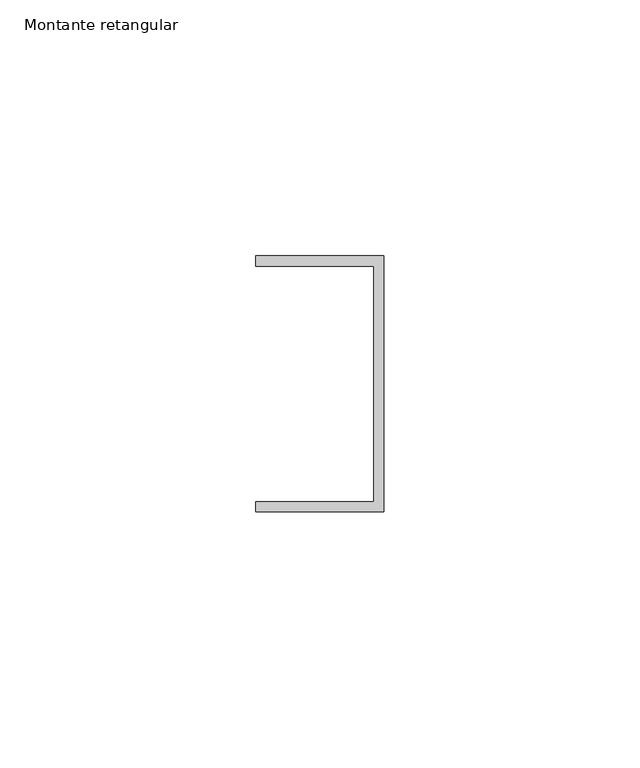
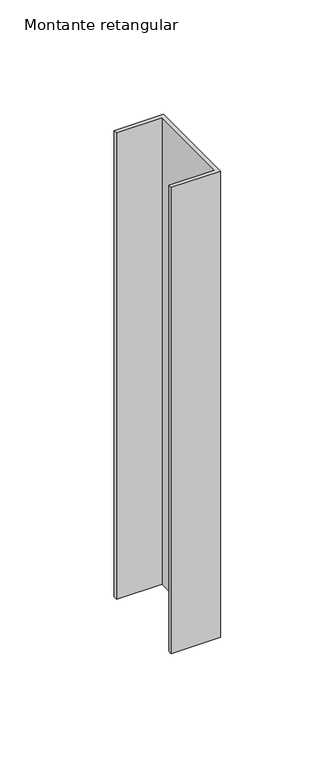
"""IFC4 building model written with IfcOpenShell, lengths in millimetres: member geometry, Montante retangular : FDE_MontanteVenezianaIndustrial_BordaOpção1_Ref50 (Alumínio Anodizado)."""

from ifc_helpers import new_model, si_unit, frame, origin, place, context, project, spatial, polyline, outline, extrude, source, transform, mapped, element, save


def montante_retangular_b3938234(model_context):
    return source(origin(), model_context, "Body", "SweptSolid", [
        extrude(outline(polyline([(0.0, 25.0), (0.0, -25.0), (-25.0, -25.0), (-25.0, -23.0), (-2.0, -23.0), (-2.0, 23.0), (-25.0, 23.0), (-25.0, 25.0), (0.0, 25.0)])), frame((0.0, 0.0, -249.0), z_axis=(0.0, 0.0, 1.0), x_axis=(1.0, 0.0, 0.0)), (0.0, 0.0, 1.0), 249.0),
    ])


if __name__ == "__main__":
    model = new_model("IFC4")
    model_context = context("Model", 3, world=origin())
    ifc_project = project(units=[si_unit("LENGTHUNIT", "METRE", prefix="MILLI")], contexts=[model_context])
    site = spatial("IfcSite", under=ifc_project)
    building = spatial("IfcBuilding", under=site)
    placement = place(None, origin())
    montante_retangular_shape = montante_retangular_b3938234(model_context)
    element("IfcMember", 1, ObjectType="Montante retangular : FDE_MontanteVenezianaIndustrial_BordaOpção1_Ref50 (Alumínio Anodizado)", at=placement, inside=building, context=model_context, shape_type="MappedRepresentation", body=[
        mapped(montante_retangular_shape, transform((0.0, 0.0, 0.0), x_axis=(1.0, 0.0, 0.0), y_axis=(0.0, 1.0, 0.0), z_axis=(0.0, 0.0, 1.0))),
    ])
    save(model, "model.ifc")
